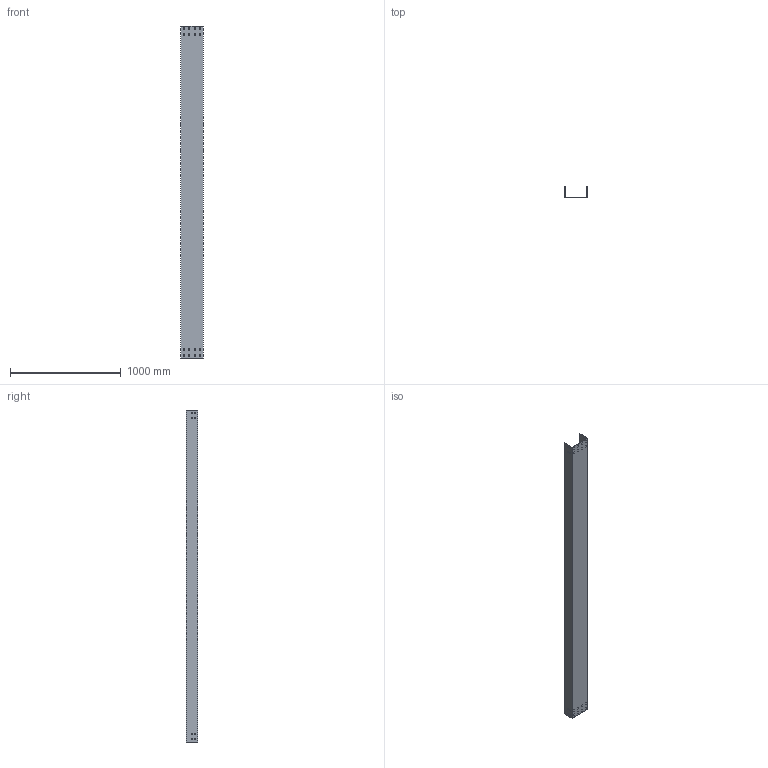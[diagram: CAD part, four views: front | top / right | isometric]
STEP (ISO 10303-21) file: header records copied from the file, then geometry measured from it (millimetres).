
FILE_DESCRIPTION (( 'STEP AP214' ), '1' );
FILE_NAME ('CF_201.step', '2025-07-16T09:05:34', ( '' ), ( '' ), 'SwSTEP 2.0', 'SolidWorks 2023', '' );
FILE_SCHEMA (( 'AUTOMOTIVE_DESIGN' ));
Length unit declared in the file: millimetre
Products named in the file (1): CF_201
Bounding box: 200 x 100 x 3000 mm (x, y, z)
Volume: 1781460 mm3; surface area: 2387583 mm2
Topology: 1 solids, 1 shells, 138 faces, 408 edges, 272 vertices
Faces by surface type: plane 138
Entity records: 4663 total; most frequent: CARTESIAN_POINT 819, ORIENTED_EDGE 816, DIRECTION 686, VECTOR 408, EDGE_CURVE 408, LINE 408, VERTEX_POINT 272, EDGE_LOOP 202
